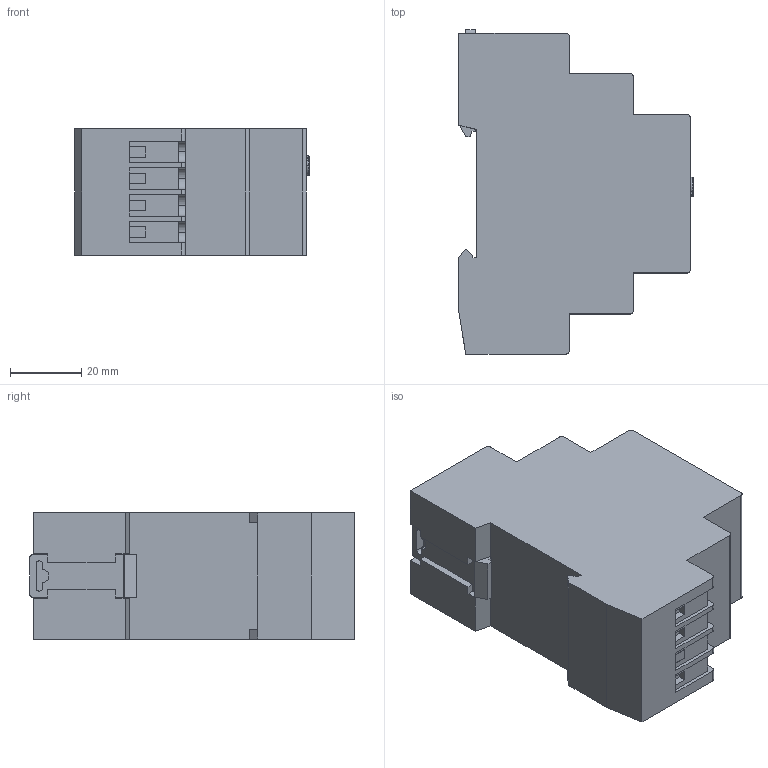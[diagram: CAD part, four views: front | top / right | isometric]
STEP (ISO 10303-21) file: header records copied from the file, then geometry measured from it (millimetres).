
FILE_DESCRIPTION (( 'STEP AP203' ), '1' );
FILE_NAME ('Ôîòîðåëå RPH-Z.STEP', '2021-11-25T20:46:23', ( '' ), ( '' ), 'SwSTEP 2.0', 'SolidWorks 2017', '' );
FILE_SCHEMA (( 'CONFIG_CONTROL_DESIGN' ));
Length unit declared in the file: millimetre
Products named in the file (1): 婜襜謥錼 RPH-Z
Bounding box: 65.8 x 91 x 35.4 mm (x, y, z)
Volume: 157728 mm3; surface area: 23121.3 mm2
Topology: 11 solids, 11 shells, 357 faces, 965 edges, 640 vertices
Faces by surface type: plane 263, cylinder 87, torus 6, sphere 1
Entity records: 11218 total; most frequent: CARTESIAN_POINT 1960, ORIENTED_EDGE 1926, DIRECTION 1867, EDGE_CURVE 963, LINE 775, VECTOR 775, VERTEX_POINT 639, AXIS2_PLACEMENT_3D 546
